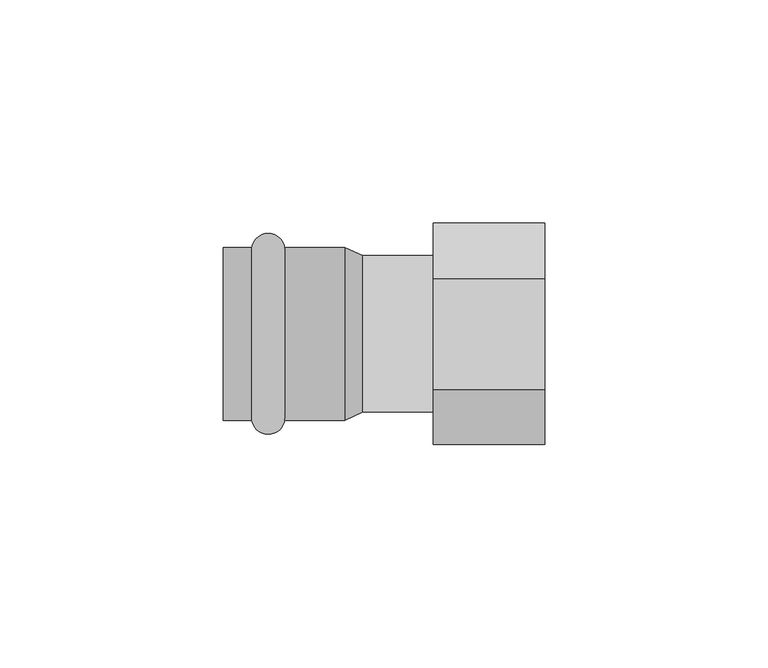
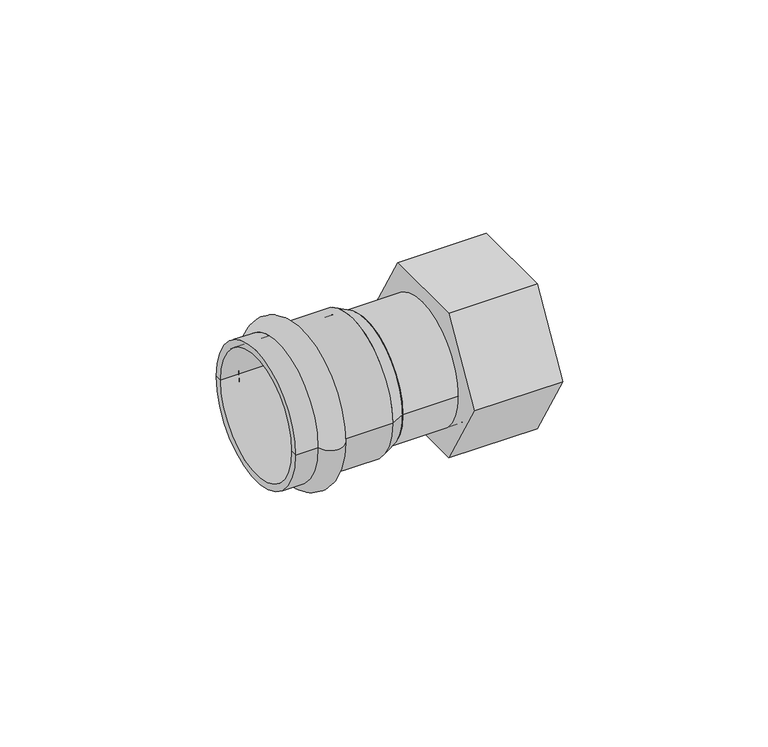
"""IFC4 building model written with IfcOpenShell, lengths in millimetres: pipe fitting geometry, VALTEC_VTi.902.I_Соединитель прямой с переходом на внутреннюю резьбу_Нержавеющая сталь : VTi.902.I."""

from ifc_helpers import new_model, si_unit, point, frame, origin, origin_2d, place, context, project, spatial, polyline, circle_curve, ellipse_curve, trimmed, segment, composite_curve, outline, extrude, source, transform, mapped, element, save
from ifc_brep_helpers import plane_surface, cylinder_surface, revolved_surface, advanced_brep


def pipe_fitting_18cb273f(model_context):
    return source(origin(), model_context, "Body", "SolidModel", [
        advanced_brep(
        [(-53.1432371, -19.4, 0.0), (-53.1432371, 19.4, 0.0), (-45.7567629, 19.4, 0.0), (-45.7567629, -19.4, 0.0), (-59.5, -19.4, 0.0), (-59.5, 19.4, 0.0), (-59.5, -17.5, 0.0), (-59.5, 17.5, 0.0), (-32.3, -17.5, 0.0), (-32.3, 17.5, 0.0), (-32.3, -19.4, 0.0), (-32.3, 19.4, 0.0)],
        [
            (0, 1, circle_curve(frame((-53.1432371, 0.0, 0.0), z_axis=(1.0, 0.0, 0.0), x_axis=(0.0, 1.0, 0.0)), 19.4)),
            (1, 2, circle_curve(frame((-49.45, 18.75, 0.0), z_axis=(0.0, 0.0, -1.0), x_axis=(1.0, 0.0, 0.0)), 3.75)),
            (2, 3, circle_curve(frame((-45.7567629, 0.0, 0.0), z_axis=(-1.0, 0.0, 0.0), x_axis=(0.0, 1.0, 0.0)), 19.4)),
            (3, 0, circle_curve(frame((-49.45, -18.75, 0.0), z_axis=(0.0, 0.0, -1.0), x_axis=(1.0, 0.0, 0.0)), 3.75)),
            (1, 0, circle_curve(frame((-53.1432371, 0.0, 0.0), z_axis=(1.0, 0.0, 0.0), x_axis=(0.0, 1.0, 0.0)), 19.4)),
            (3, 2, circle_curve(frame((-45.7567629, 0.0, 0.0), z_axis=(-1.0, 0.0, 0.0), x_axis=(0.0, 1.0, 0.0)), 19.4)),
            (4, 5, circle_curve(frame((-59.5, 0.0, 0.0), z_axis=(1.0, 0.0, 0.0), x_axis=(0.0, 1.0, 0.0)), 19.4)),
            (5, 1),
            (0, 4),
            (5, 4, circle_curve(frame((-59.5, 0.0, 0.0), z_axis=(1.0, 0.0, 0.0), x_axis=(0.0, 1.0, 0.0)), 19.4)),
            (6, 7, circle_curve(frame((-59.5, 0.0, 0.0), z_axis=(1.0, 0.0, 0.0), x_axis=(0.0, 1.0, 0.0)), 17.5)),
            (7, 5),
            (4, 6),
            (7, 6, circle_curve(frame((-59.5, 0.0, 0.0), z_axis=(1.0, 0.0, 0.0), x_axis=(0.0, 1.0, 0.0)), 17.5)),
            (8, 9, circle_curve(frame((-32.3, 0.0, 0.0), z_axis=(1.0, 0.0, 0.0), x_axis=(0.0, 1.0, 0.0)), 17.5)),
            (9, 7),
            (6, 8),
            (9, 8, circle_curve(frame((-32.3, 0.0, 0.0), z_axis=(1.0, 0.0, 0.0), x_axis=(0.0, 1.0, 0.0)), 17.5)),
            (10, 11, circle_curve(frame((-32.3, 0.0, 0.0), z_axis=(1.0, 0.0, 0.0), x_axis=(0.0, 1.0, 0.0)), 19.4)),
            (11, 9),
            (8, 10),
            (11, 10, circle_curve(frame((-32.3, 0.0, 0.0), z_axis=(1.0, 0.0, 0.0), x_axis=(0.0, 1.0, 0.0)), 19.4)),
            (2, 11),
            (10, 3),
        ],
        [
            revolved_surface(trimmed(ellipse_curve(frame((-49.45, 18.75, 0.0), z_axis=(0.0, 0.0, 1.0), x_axis=(1.0, 0.0, 0.0)), 3.75, 3.75), [point((-45.7567629, 19.4, 0.0))], [point((-53.1432371, 19.4, 0.0))], True, "CARTESIAN"), (-63.0364426, 0.0, 0.0), (-1.0, 0.0, 0.0)),
            cylinder_surface(frame((-63.0364426, 0.0, 0.0), z_axis=(-1.0, 0.0, 0.0), x_axis=(0.0, 1.0, 0.0)), 19.4),
            plane_surface(frame((-59.5, 0.0, 0.0), z_axis=(-1.0, 0.0, 0.0), x_axis=(0.0, 1.0, 0.0))),
            revolved_surface(polyline([(-59.5, 17.5, 0.0), (-32.3, 17.5, 0.0)]), (-63.0364426, 0.0, 0.0), (-1.0, 0.0, 0.0)),
            plane_surface(frame((-32.3, 0.0, 0.0), z_axis=(1.0, 0.0, 0.0), x_axis=(0.0, 1.0, 0.0))),
        ],
        [
            (0, [[1, 2, 3, 4]]),
            (0, [[5, -4, 6, -2]]),
            (1, [[7, 8, -1, 9]]),
            (1, [[10, -9, -5, -8]]),
            (2, [[11, 12, -7, 13]]),
            (2, [[14, -13, -10, -12]]),
            (3, [[15, 16, -11, 17]]),
            (3, [[18, -17, -14, -16]]),
            (4, [[19, 20, -15, 21]]),
            (4, [[22, -21, -18, -20]]),
            (1, [[-3, 23, -19, 24]]),
            (1, [[-6, -24, -22, -23]]),
        ],
    ),
        extrude(outline(polyline([(-24.8260616, 0.0), (-12.4130308, 21.5), (12.4130308, 21.5), (24.8260616, 0.0), (12.4130308, -21.5), (-12.4130308, -21.5), (-24.8260616, 0.0)])), frame((-12.5, 0.0, 0.0), z_axis=(1.0, 0.0, 0.0), x_axis=(0.0, 1.0, 0.0)), (0.0, 0.0, 1.0), 25.0),
        extrude(outline(composite_curve([segment(trimmed(circle_curve(origin_2d(), 17.5), [point((-17.5, 0.0))], [point((17.5, 0.0))], False, "CARTESIAN"), True, "CONTINUOUS"), segment(trimmed(circle_curve(origin_2d(), 17.5), [point((17.5, 0.0))], [point((-17.5, 0.0))], False, "CARTESIAN"), True, "CONTINUOUS")], self_intersect=False)), frame((-28.3, 0.0, 0.0), z_axis=(1.0, 0.0, 0.0), x_axis=(0.0, 1.0, 0.0)), (0.0, 0.0, 1.0), 19.8),
        advanced_brep(
        [(-28.3, -17.5, 0.0), (-28.3, 17.5, 0.0), (-32.3, -19.4, 0.0), (-32.3, 19.4, 0.0)],
        [
            (0, 1, circle_curve(frame((-28.3, 0.0, 0.0), z_axis=(1.0, 0.0, 0.0), x_axis=(0.0, -1.0, 0.0)), 17.5)),
            (1, 0, circle_curve(frame((-28.3, 0.0, 0.0), z_axis=(1.0, 0.0, 0.0), x_axis=(0.0, 1.0, 0.0)), 17.5)),
            (2, 3, circle_curve(frame((-32.3, 0.0, 0.0), z_axis=(-1.0, 0.0, 0.0), x_axis=(0.0, 1.0, 0.0)), 19.4)),
            (3, 2, circle_curve(frame((-32.3, 0.0, 0.0), z_axis=(-1.0, 0.0, 0.0), x_axis=(0.0, -1.0, 0.0)), 19.4)),
            (3, 1),
            (0, 2),
        ],
        [
            plane_surface(frame((-28.3, 0.0, 0.0), z_axis=(1.0, 0.0, 0.0), x_axis=(0.0, 0.0, -1.0))),
            plane_surface(frame((-32.3, 0.0, 0.0), z_axis=(-1.0, 0.0, 0.0), x_axis=(0.0, 0.0, -1.0))),
            revolved_surface(polyline([(-28.3, -17.500000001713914, 0.0), (-32.3, -19.4, 0.0)]), (8.5421053, 0.0, 0.0), (-1.0, 0.0, 0.0)),
            revolved_surface(polyline([(-28.3, 17.500000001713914, 0.0), (-32.3, 19.4, 0.0)]), (8.5421053, 0.0, 0.0), (-1.0, 0.0, 0.0)),
        ],
        [
            (0, [[1, 2]]),
            (1, [[3, 4]]),
            (2, [[-4, 5, -1, 6]]),
            (3, [[-3, -6, -2, -5]]),
        ],
    ),
    ])


if __name__ == "__main__":
    model = new_model("IFC4")
    model_context = context("Model", 3, world=origin())
    ifc_project = project(units=[si_unit("LENGTHUNIT", "METRE", prefix="MILLI")], contexts=[model_context])
    site = spatial("IfcSite", under=ifc_project)
    building = spatial("IfcBuilding", under=site)
    placement = place(None, origin())
    pipe_fitting_shape = pipe_fitting_18cb273f(model_context)
    element("IfcPipeFitting", 1, ObjectType="VALTEC_VTi.902.I_Соединитель прямой с переходом на внутреннюю резьбу_Нержавеющая сталь : VTi.902.I", at=placement, inside=building, context=model_context, shape_type="MappedRepresentation", body=[
        mapped(pipe_fitting_shape, transform((0.0, 0.0, 0.0), x_axis=(1.0, 0.0, 0.0), y_axis=(0.0, 1.0, 0.0), z_axis=(0.0, 0.0, 1.0))),
    ])
    save(model, "model.ifc")
